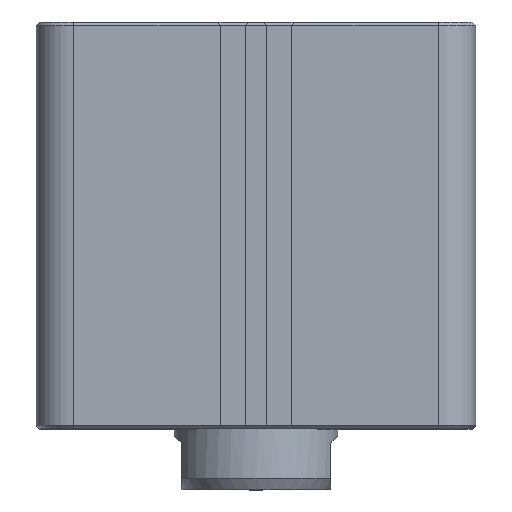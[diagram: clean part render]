
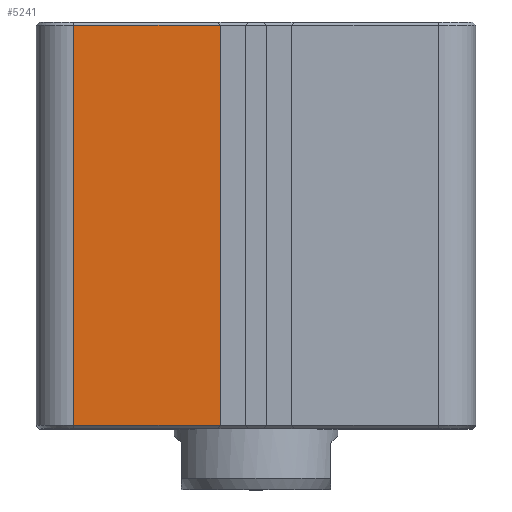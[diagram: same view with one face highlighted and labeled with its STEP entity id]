
A CAD part, top view. The second image highlights one B-rep face of the part: STEP entity #5241.
In plain terms, the highlighted planar face has unit normal (0, 0, 1).
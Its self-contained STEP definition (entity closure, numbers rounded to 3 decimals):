
#136=LINE('',#7256,#526);
#138=LINE('',#7260,#528);
#139=LINE('',#7262,#529);
#140=LINE('',#7264,#530);
#526=VECTOR('',#5961,1000.);
#528=VECTOR('',#5965,1000.);
#529=VECTOR('',#5966,1000.);
#530=VECTOR('',#5967,1000.);
#1111=ORIENTED_EDGE('',*,*,#2038,.F.);
#1112=ORIENTED_EDGE('',*,*,#2040,.T.);
#1113=ORIENTED_EDGE('',*,*,#2041,.T.);
#1114=ORIENTED_EDGE('',*,*,#2042,.T.);
#2038=EDGE_CURVE('',#2508,#2509,#136,.T.);
#2040=EDGE_CURVE('',#2508,#2510,#138,.T.);
#2041=EDGE_CURVE('',#2510,#2511,#139,.T.);
#2042=EDGE_CURVE('',#2511,#2509,#140,.T.);
#2508=VERTEX_POINT('',#7255);
#2509=VERTEX_POINT('',#7257);
#2510=VERTEX_POINT('',#7261);
#2511=VERTEX_POINT('',#7263);
#2869=EDGE_LOOP('',(#1111,#1112,#1113,#1114));
#3155=FACE_BOUND('',#2869,.T.);
#3392=PLANE('',#5508);
#5241=ADVANCED_FACE('',(#3155),#3392,.T.);
#5508=AXIS2_PLACEMENT_3D('',#7259,#5963,#5964);
#5961=DIRECTION('',(0.,-1.,0.));
#5963=DIRECTION('',(0.,0.,1.));
#5964=DIRECTION('',(1.,0.,0.));
#5965=DIRECTION('',(-1.,0.,0.));
#5966=DIRECTION('',(0.,-1.,0.));
#5967=DIRECTION('',(1.,0.,0.));
#7255=CARTESIAN_POINT('',(-7.65,86.3,47.));
#7256=CARTESIAN_POINT('',(-7.65,77.,47.));
#7257=CARTESIAN_POINT('',(-7.65,0.7,47.));
#7259=CARTESIAN_POINT('',(-7.65,77.,47.));
#7260=CARTESIAN_POINT('',(-7.65,86.3,47.));
#7261=CARTESIAN_POINT('',(-39.,86.3,47.));
#7262=CARTESIAN_POINT('',(-39.,77.,47.));
#7263=CARTESIAN_POINT('',(-39.,0.7,47.));
#7264=CARTESIAN_POINT('',(-7.65,0.7,47.));
